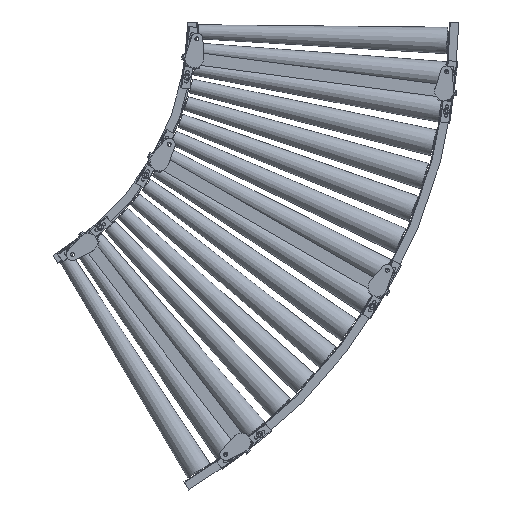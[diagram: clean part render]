
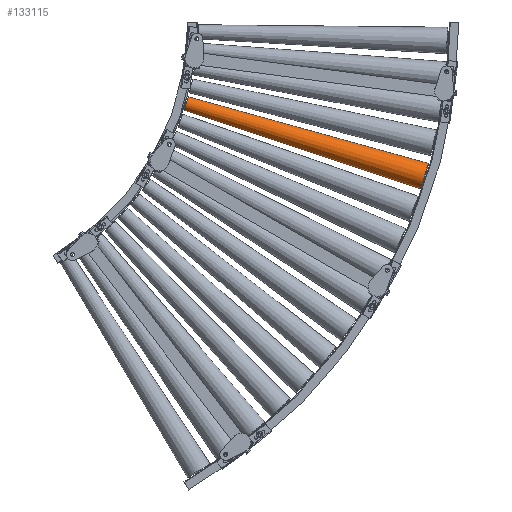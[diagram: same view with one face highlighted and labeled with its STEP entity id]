
A CAD part, front view. The second image highlights one B-rep face of the part: STEP entity #133115.
In plain terms, the highlighted conical face has half-angle 1.434 degrees and reference radius 42.8 mm.
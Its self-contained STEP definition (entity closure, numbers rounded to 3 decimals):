
#3335 = VECTOR ( 'NONE', #143209, 1000. ) ;
#4964 = LINE ( 'NONE', #102395, #49693 ) ;
#11807 = DIRECTION ( 'NONE',  ( 0.291, 0., 0.957 ) ) ;
#14740 = EDGE_LOOP ( 'NONE', ( #84856, #60348, #101233, #94164 ) ) ;
#17075 = DIRECTION ( 'NONE',  ( 0.956, -0.025, -0.291 ) ) ;
#21583 = CARTESIAN_POINT ( 'NONE',  ( 871.836, -22.643, -241.762 ) ) ;
#28052 = EDGE_CURVE ( 'NONE', #120582, #90897, #4964, .T. ) ;
#32050 = CARTESIAN_POINT ( 'NONE',  ( 1622.389, -42.787, -538.69 ) ) ;
#34215 = CARTESIAN_POINT ( 'NONE',  ( 865.239, -22.643, -263.43 ) ) ;
#41751 = AXIS2_PLACEMENT_3D ( 'NONE', #34215, #125756, #11807 ) ;
#49693 = VECTOR ( 'NONE', #101911, 1000. ) ;
#51048 = CARTESIAN_POINT ( 'NONE',  ( 1634.855, -42.787, -497.746 ) ) ;
#51579 = CARTESIAN_POINT ( 'NONE',  ( 1647.321, -42.787, -456.802 ) ) ;
#56323 = AXIS2_PLACEMENT_3D ( 'NONE', #51048, #17075, #95431 ) ;
#60348 = ORIENTED_EDGE ( 'NONE', *, *, #145263, .F. ) ;
#63127 = CONICAL_SURFACE ( 'NONE', #56323, 42.8, 0.025 ) ;
#66677 = FACE_OUTER_BOUND ( 'NONE', #14740, .T. ) ;
#83948 = VERTEX_POINT ( 'NONE', #32050 ) ;
#84856 = ORIENTED_EDGE ( 'NONE', *, *, #28052, .F. ) ;
#90113 = EDGE_CURVE ( 'NONE', #83948, #90897, #142648, .T. ) ;
#90897 = VERTEX_POINT ( 'NONE', #51579 ) ;
#94164 = ORIENTED_EDGE ( 'NONE', *, *, #90113, .T. ) ;
#95431 = DIRECTION ( 'NONE',  ( -0.291, 0., -0.957 ) ) ;
#99279 = EDGE_CURVE ( 'NONE', #123989, #83948, #124960, .T. ) ;
#101233 = ORIENTED_EDGE ( 'NONE', *, *, #99279, .T. ) ;
#101911 = DIRECTION ( 'NONE',  ( 0.963, -0.025, -0.267 ) ) ;
#102395 = CARTESIAN_POINT ( 'NONE',  ( 1647.321, -42.787, -456.802 ) ) ;
#111887 = AXIS2_PLACEMENT_3D ( 'NONE', #128730, #141256, #118681 ) ;
#118681 = DIRECTION ( 'NONE',  ( 0.291, 0., 0.957 ) ) ;
#120582 = VERTEX_POINT ( 'NONE', #21583 ) ;
#123989 = VERTEX_POINT ( 'NONE', #138158 ) ;
#124960 = LINE ( 'NONE', #131735, #3335 ) ;
#125756 = DIRECTION ( 'NONE',  ( -0.956, 0.025, 0.291 ) ) ;
#128730 = CARTESIAN_POINT ( 'NONE',  ( 1634.855, -42.787, -497.746 ) ) ;
#130713 = CIRCLE ( 'NONE', #41751, 22.65 ) ;
#131735 = CARTESIAN_POINT ( 'NONE',  ( 1622.389, -42.787, -538.69 ) ) ;
#133115 = ADVANCED_FACE ( 'NONE', ( #66677 ), #63127, .T. ) ;
#138158 = CARTESIAN_POINT ( 'NONE',  ( 858.642, -22.643, -285.098 ) ) ;
#141256 = DIRECTION ( 'NONE',  ( -0.956, 0.025, 0.291 ) ) ;
#142648 = CIRCLE ( 'NONE', #111887, 42.8 ) ;
#143209 = DIRECTION ( 'NONE',  ( 0.949, -0.025, -0.315 ) ) ;
#145263 = EDGE_CURVE ( 'NONE', #123989, #120582, #130713, .T. ) ;
